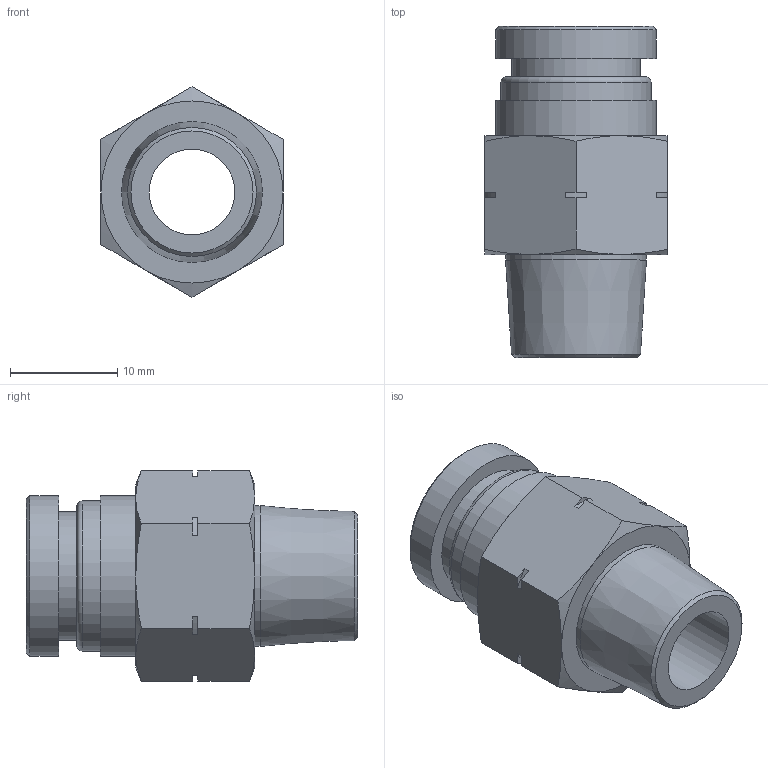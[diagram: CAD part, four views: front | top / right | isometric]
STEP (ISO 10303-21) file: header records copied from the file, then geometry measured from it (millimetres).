
FILE_DESCRIPTION(/* description */ (''),/* implementation_level */ '2;1');
FILE_NAME(/* name */ 'LXH11 0010 N2.stp',/* time_stamp */ '2026-04-19T14:58:21+02:00',/* author */ ('freju'),/* organization */ (''),/* preprocessor_version */ 'ST-DEVELOPER v20.1',/* originating_system */ 'Autodesk Inventor 2026',/* authorisation */ '');
FILE_SCHEMA (('AUTOMOTIVE_DESIGN { 1 0 10303 214 3 1 1 }'));
Length unit declared in the file: millimetre
Products named in the file (1): LXH11 0010 N2
Bounding box: 17 x 30.9 x 19.63 mm (x, y, z)
Volume: 3656.4 mm3; surface area: 2824.6 mm2
Topology: 1 solids, 1 shells, 55 faces, 128 edges, 81 vertices
Faces by surface type: plane 26, cone 15, cylinder 13, torus 1
Full cylindrical faces by diameter (mm): 8 x1, 10 x1, 12 x1, 13.139 x1, 14 x1, 15 x2
Entity records: 1587 total; most frequent: CARTESIAN_POINT 313, DIRECTION 262, ORIENTED_EDGE 256, EDGE_CURVE 128, AXIS2_PLACEMENT_3D 102, VERTEX_POINT 81, EDGE_LOOP 63, LINE 58
